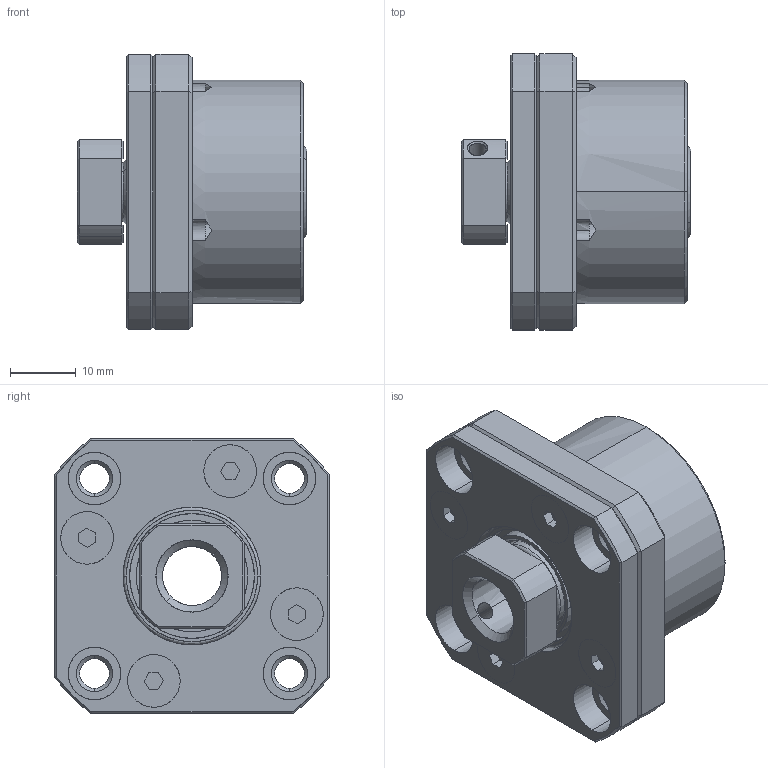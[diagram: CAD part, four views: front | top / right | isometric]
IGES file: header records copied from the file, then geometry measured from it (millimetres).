
Start section: SolidWorks IGES file using analytic representation for surfaces
Global section: file name: 4HC:\Users\117\Desktop\FK10組合A.IGS; native system: SolidWorks 2018; preprocessor: SolidWorks 2018; author: 117; date: 210929.092726; units: millimetre
Bounding box: 35 x 42 x 42 mm (x, y, z)
Surface area: 12722.3 mm2 (no closed solid volume)
Topology: 0 solids, 0 shells, 229 faces, 3289 edges, 3289 vertices
Faces by surface type: revolution 125, bspline 104
